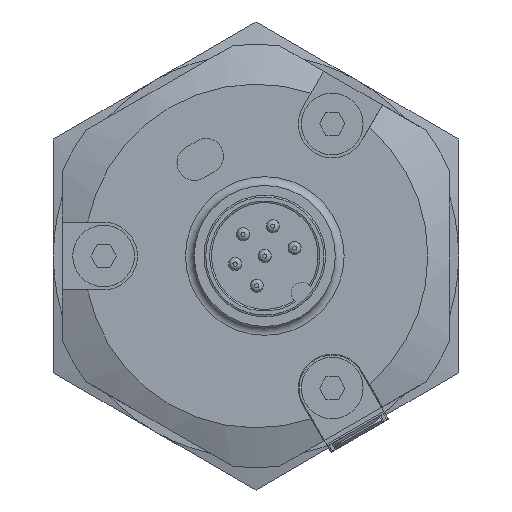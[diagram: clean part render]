
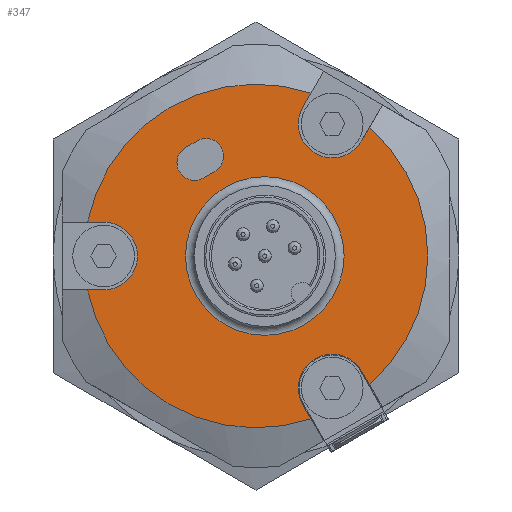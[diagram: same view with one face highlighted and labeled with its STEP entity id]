
A CAD part, left-side view. The second image highlights one B-rep face of the part: STEP entity #347.
In plain terms, the highlighted planar face has unit normal (-1, 0, 0).
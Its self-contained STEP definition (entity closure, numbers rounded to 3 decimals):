
#347 = ADVANCED_FACE( '', ( #761, #762, #763 ), #764, .F. );
#761 = FACE_OUTER_BOUND( '', #1387, .T. );
#762 = FACE_BOUND( '', #1388, .T. );
#763 = FACE_BOUND( '', #1389, .T. );
#764 = PLANE( '', #1390 );
#1387 = EDGE_LOOP( '', ( #2710, #2711, #2712, #2713, #2714, #2715, #2716, #2717, #2718, #2719, #2720, #2721 ) );
#1388 = EDGE_LOOP( '', ( #2722 ) );
#1389 = EDGE_LOOP( '', ( #2723, #2724, #2725, #2726 ) );
#1390 = AXIS2_PLACEMENT_3D( '', #2727, #2728, #2729 );
#2710 = ORIENTED_EDGE( '', *, *, #3067, .T. );
#2711 = ORIENTED_EDGE( '', *, *, #3071, .T. );
#2712 = ORIENTED_EDGE( '', *, *, #3161, .F. );
#2713 = ORIENTED_EDGE( '', *, *, #2778, .T. );
#2714 = ORIENTED_EDGE( '', *, *, #2772, .T. );
#2715 = ORIENTED_EDGE( '', *, *, #2768, .T. );
#2716 = ORIENTED_EDGE( '', *, *, #3162, .F. );
#2717 = ORIENTED_EDGE( '', *, *, #2789, .T. );
#2718 = ORIENTED_EDGE( '', *, *, #2784, .T. );
#2719 = ORIENTED_EDGE( '', *, *, #3074, .T. );
#2720 = ORIENTED_EDGE( '', *, *, #3160, .F. );
#2721 = ORIENTED_EDGE( '', *, *, #2897, .T. );
#2722 = ORIENTED_EDGE( '', *, *, #3139, .T. );
#2723 = ORIENTED_EDGE( '', *, *, #3123, .T. );
#2724 = ORIENTED_EDGE( '', *, *, #3113, .T. );
#2725 = ORIENTED_EDGE( '', *, *, #3117, .T. );
#2726 = ORIENTED_EDGE( '', *, *, #3120, .T. );
#2727 = CARTESIAN_POINT( '', ( -68., 0., 0. ) );
#2728 = DIRECTION( '', ( 1., 0., 0. ) );
#2729 = DIRECTION( '', ( 0., 0., -1. ) );
#2768 = EDGE_CURVE( '', #3190, #3188, #3191, .T. );
#2772 = EDGE_CURVE( '', #3197, #3190, #3198, .T. );
#2778 = EDGE_CURVE( '', #3202, #3197, #3208, .T. );
#2784 = EDGE_CURVE( '', #3219, #3220, #3221, .T. );
#2789 = EDGE_CURVE( '', #3224, #3219, #3228, .T. );
#2897 = EDGE_CURVE( '', #3420, #3418, #3421, .T. );
#3067 = EDGE_CURVE( '', #3418, #3691, #3692, .T. );
#3071 = EDGE_CURVE( '', #3691, #3696, #3698, .T. );
#3074 = EDGE_CURVE( '', #3220, #3700, #3702, .T. );
#3113 = EDGE_CURVE( '', #3761, #3762, #3763, .T. );
#3117 = EDGE_CURVE( '', #3762, #3769, #3770, .T. );
#3120 = EDGE_CURVE( '', #3769, #3774, #3775, .T. );
#3123 = EDGE_CURVE( '', #3774, #3761, #3779, .T. );
#3139 = EDGE_CURVE( '', #3806, #3806, #3807, .T. );
#3160 = EDGE_CURVE( '', #3420, #3700, #3846, .T. );
#3161 = EDGE_CURVE( '', #3202, #3696, #3847, .T. );
#3162 = EDGE_CURVE( '', #3224, #3188, #3848, .T. );
#3188 = VERTEX_POINT( '', #3894 );
#3190 = VERTEX_POINT( '', #3899 );
#3191 = LINE( '', #3900, #3901 );
#3197 = VERTEX_POINT( '', #3910 );
#3198 = CIRCLE( '', #3911, 3.85 );
#3202 = VERTEX_POINT( '', #3916 );
#3208 = LINE( '', #3927, #3928 );
#3219 = VERTEX_POINT( '', #3942 );
#3220 = VERTEX_POINT( '', #3943 );
#3221 = CIRCLE( '', #3944, 3.85 );
#3224 = VERTEX_POINT( '', #3949 );
#3228 = LINE( '', #3957, #3958 );
#3418 = VERTEX_POINT( '', #4253 );
#3420 = VERTEX_POINT( '', #4256 );
#3421 = LINE( '', #4257, #4258 );
#3691 = VERTEX_POINT( '', #4747 );
#3692 = CIRCLE( '', #4748, 3.85 );
#3696 = VERTEX_POINT( '', #4753 );
#3698 = LINE( '', #4758, #4759 );
#3700 = VERTEX_POINT( '', #4762 );
#3702 = LINE( '', #4767, #4768 );
#3761 = VERTEX_POINT( '', #4863 );
#3762 = VERTEX_POINT( '', #4864 );
#3763 = LINE( '', #4865, #4866 );
#3769 = VERTEX_POINT( '', #4875 );
#3770 = CIRCLE( '', #4876, 2. );
#3774 = VERTEX_POINT( '', #4881 );
#3775 = LINE( '', #4882, #4883 );
#3779 = CIRCLE( '', #4889, 2. );
#3806 = VERTEX_POINT( '', #4916 );
#3807 = CIRCLE( '', #4917, 9. );
#3846 = CIRCLE( '', #4956, 19.5 );
#3847 = CIRCLE( '', #4957, 19.5 );
#3848 = CIRCLE( '', #4958, 19.5 );
#3894 = CARTESIAN_POINT( '', ( -68., -12.892, -14.63 ) );
#3899 = CARTESIAN_POINT( '', ( -68., -11.984, -13.057 ) );
#3900 = CARTESIAN_POINT( '', ( -68., -11.984, -13.057 ) );
#3901 = VECTOR( '', #4977, 1000. );
#3910 = CARTESIAN_POINT( '', ( -68., -5.316, -16.907 ) );
#3911 = AXIS2_PLACEMENT_3D( '', #4981, #4982, #4983 );
#3916 = CARTESIAN_POINT( '', ( -68., -6.224, -18.48 ) );
#3927 = CARTESIAN_POINT( '', ( -68., -7.916, -21.411 ) );
#3928 = VECTOR( '', #4990, 1000. );
#3942 = CARTESIAN_POINT( '', ( -68., -11.984, 13.057 ) );
#3943 = CARTESIAN_POINT( '', ( -68., -5.316, 16.907 ) );
#3944 = AXIS2_PLACEMENT_3D( '', #5000, #5001, #5002 );
#3949 = CARTESIAN_POINT( '', ( -68., -12.892, 14.63 ) );
#3957 = CARTESIAN_POINT( '', ( -68., -14.584, 17.561 ) );
#3958 = VECTOR( '', #5006, 1000. );
#4253 = CARTESIAN_POINT( '', ( -68., 17.3, 3.85 ) );
#4256 = CARTESIAN_POINT( '', ( -68., 19.116, 3.85 ) );
#4257 = CARTESIAN_POINT( '', ( -68., 22.5, 3.85 ) );
#4258 = VECTOR( '', #5165, 1000. );
#4747 = CARTESIAN_POINT( '', ( -68., 17.3, -3.85 ) );
#4748 = AXIS2_PLACEMENT_3D( '', #5416, #5417, #5418 );
#4753 = CARTESIAN_POINT( '', ( -68., 19.116, -3.85 ) );
#4758 = CARTESIAN_POINT( '', ( -68., 17.3, -3.85 ) );
#4759 = VECTOR( '', #5423, 1000. );
#4762 = CARTESIAN_POINT( '', ( -68., -6.224, 18.48 ) );
#4767 = CARTESIAN_POINT( '', ( -68., -5.316, 16.907 ) );
#4768 = VECTOR( '', #5425, 1000. );
#4863 = CARTESIAN_POINT( '', ( -68., 7.975, 12.312 ) );
#4864 = CARTESIAN_POINT( '', ( -68., 6.675, 13.062 ) );
#4865 = CARTESIAN_POINT( '', ( -68., 7.325, 12.687 ) );
#4866 = VECTOR( '', #5468, 1000. );
#4875 = CARTESIAN_POINT( '', ( -68., 4.675, 9.598 ) );
#4876 = AXIS2_PLACEMENT_3D( '', #5472, #5473, #5474 );
#4881 = CARTESIAN_POINT( '', ( -68., 5.975, 8.848 ) );
#4882 = CARTESIAN_POINT( '', ( -68., 5.325, 9.223 ) );
#4883 = VECTOR( '', #5479, 1000. );
#4889 = AXIS2_PLACEMENT_3D( '', #5482, #5483, #5484 );
#4916 = CARTESIAN_POINT( '', ( -68., -1., -9. ) );
#4917 = AXIS2_PLACEMENT_3D( '', #5530, #5531, #5532 );
#4956 = AXIS2_PLACEMENT_3D( '', #5590, #5591, #5592 );
#4957 = AXIS2_PLACEMENT_3D( '', #5593, #5594, #5595 );
#4958 = AXIS2_PLACEMENT_3D( '', #5596, #5597, #5598 );
#4977 = DIRECTION( '', ( 0., -0.5, -0.866 ) );
#4981 = CARTESIAN_POINT( '', ( -68., -8.65, -14.982 ) );
#4982 = DIRECTION( '', ( 1., 0., 0. ) );
#4983 = DIRECTION( '', ( 0., 0., -1. ) );
#4990 = DIRECTION( '', ( 0., 0.5, 0.866 ) );
#5000 = CARTESIAN_POINT( '', ( -68., -8.65, 14.982 ) );
#5001 = DIRECTION( '', ( 1., 0., 0. ) );
#5002 = DIRECTION( '', ( 0., 0., -1. ) );
#5006 = DIRECTION( '', ( 0., 0.5, -0.866 ) );
#5165 = DIRECTION( '', ( 0., -1., 0. ) );
#5416 = CARTESIAN_POINT( '', ( -68., 17.3, 0. ) );
#5417 = DIRECTION( '', ( 1., 0., 0. ) );
#5418 = DIRECTION( '', ( 0., 0., -1. ) );
#5423 = DIRECTION( '', ( 0., 1., 0. ) );
#5425 = DIRECTION( '', ( 0., -0.5, 0.866 ) );
#5468 = DIRECTION( '', ( 0., -0.866, 0.5 ) );
#5472 = CARTESIAN_POINT( '', ( -68., 5.675, 11.33 ) );
#5473 = DIRECTION( '', ( 1., 0., 0. ) );
#5474 = DIRECTION( '', ( 0., 0., -1. ) );
#5479 = DIRECTION( '', ( 0., 0.866, -0.5 ) );
#5482 = CARTESIAN_POINT( '', ( -68., 6.975, 10.58 ) );
#5483 = DIRECTION( '', ( 1., 0., 0. ) );
#5484 = DIRECTION( '', ( 0., 0., -1. ) );
#5530 = CARTESIAN_POINT( '', ( -68., -1., 0. ) );
#5531 = DIRECTION( '', ( 1., 0., 0. ) );
#5532 = DIRECTION( '', ( 0., 0., -1. ) );
#5590 = CARTESIAN_POINT( '', ( -68., 0., 0. ) );
#5591 = DIRECTION( '', ( 1., 0., 0. ) );
#5592 = DIRECTION( '', ( 0., 0., -1. ) );
#5593 = CARTESIAN_POINT( '', ( -68., 0., 0. ) );
#5594 = DIRECTION( '', ( 1., 0., 0. ) );
#5595 = DIRECTION( '', ( 0., 0., -1. ) );
#5596 = CARTESIAN_POINT( '', ( -68., 0., 0. ) );
#5597 = DIRECTION( '', ( 1., 0., 0. ) );
#5598 = DIRECTION( '', ( 0., 0., -1. ) );
